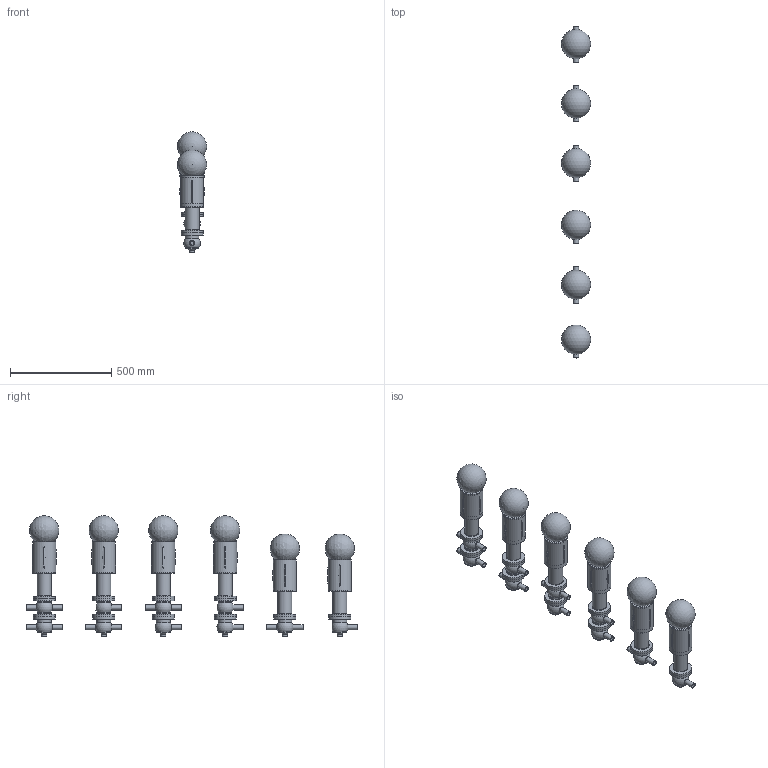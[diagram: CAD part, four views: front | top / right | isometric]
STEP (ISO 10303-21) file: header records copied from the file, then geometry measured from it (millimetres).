
FILE_DESCRIPTION(/* description */ (''),/* implementation_level */ '2;1');
FILE_NAME(/* name */ 'C:\Users\marz-m\Desktop\PDF\BBZQ 3D STEP\BBZQ-DN254-CIL.108.stp',/* time_stamp */ '2018-04-13T14:24:32+02:00',/* author */ ('marz-m'),/* organization */ (''),/* preprocessor_version */ 'ST-DEVELOPER v17',/* originating_system */ 'Autodesk Inventor 2018',/* authorisation */ '');
FILE_SCHEMA (('AUTOMOTIVE_DESIGN { 1 0 10303 214 3 1 1 }'));
Length unit declared in the file: millimetre
Products named in the file (8): BBZQ-CIL.108-DN254; COR-INF-L-BBZQ-DN025(28X3)-SALD; COR-INF-T-BBZQ-DN025(28X2.5)-SALD; assemblaggio dn40 per cil 108-156; CIL108; SAGOMA-GIOTTO-; CORPO-SUP-BBZQ-L-DN254-SALD; CORPO-SUP-BBZQ-T-DN254-SALD
Assembly tree (28 placements, depth 2):
  BBZQ-CIL.108-DN254
    COR-INF-L-BBZQ-DN025(28X3)-SALD  x3
    COR-INF-T-BBZQ-DN025(28X2.5)-SALD  x3
    assemblaggio dn40 per cil 108-156  x6
    CIL108  x6
    SAGOMA-GIOTTO-  x6
    CORPO-SUP-BBZQ-L-DN254-SALD  x2
    CORPO-SUP-BBZQ-T-DN254-SALD  x2
Bounding box: 144.47 x 1643.08 x 595.47 mm (x, y, z)
Volume: 19578518.2 mm3; surface area: 2101472.2 mm2
Topology: 28 solids, 34 shells, 392 faces, 930 edges, 692 vertices
Faces by surface type: plane 121, cylinder 112, cone 66, torus 62, sphere 31
Full cylindrical faces by diameter (mm): 20 x12, 20.4 x21, 25.4 x21, 68 x20, 69 x6, 108.5 x6, 109 x20, 114 x6
Entity records: 3899 total; most frequent: CARTESIAN_POINT 859, DIRECTION 673, ORIENTED_EDGE 490, AXIS2_PLACEMENT_3D 316, EDGE_CURVE 245, VERTEX_POINT 182, CIRCLE 172, EDGE_LOOP 137
